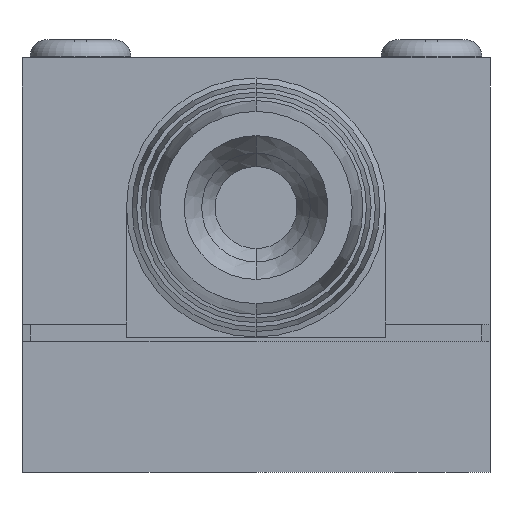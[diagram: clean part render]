
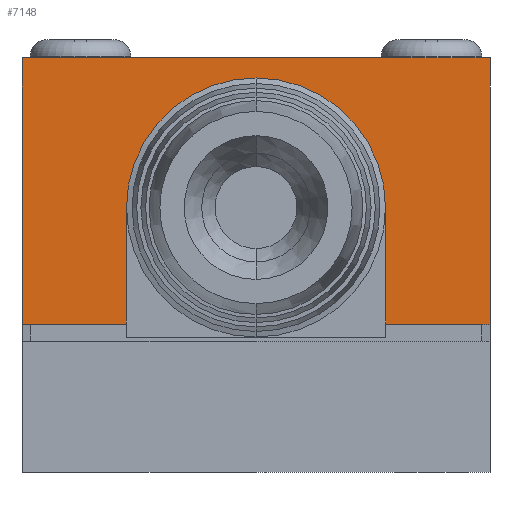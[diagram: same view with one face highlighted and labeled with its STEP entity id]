
A CAD part, front view. The second image highlights one B-rep face of the part: STEP entity #7148.
In plain terms, the highlighted planar face has unit normal (0, -1, 0).
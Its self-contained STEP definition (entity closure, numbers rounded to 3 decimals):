
#126 = EDGE_CURVE ( 'NONE', #6419, #6433, #560, .T. ) ;
#127 = EDGE_CURVE ( 'NONE', #6411, #6419, #563, .T. ) ;
#128 = EDGE_CURVE ( 'NONE', #6436, #6433, #566, .T. ) ;
#129 = EDGE_CURVE ( 'NONE', #6436, #6411, #569, .T. ) ;
#130 = EDGE_CURVE ( 'NONE', #6344, #6343, #6707, .T. ) ;
#559 = CARTESIAN_POINT ( 'NONE',  ( 0., -22.525, 15.85 ) ) ;
#560 = LINE ( 'NONE', #561, #2269 ) ;
#561 = CARTESIAN_POINT ( 'NONE',  ( -14., -22.525, 8.85 ) ) ;
#562 = DIRECTION ( 'NONE',  ( 1., 0., 0. ) ) ;
#563 = LINE ( 'NONE', #564, #2264 ) ;
#564 = CARTESIAN_POINT ( 'NONE',  ( -14., -22.525, 24.8 ) ) ;
#565 = DIRECTION ( 'NONE',  ( 0., 0., -1. ) ) ;
#566 = LINE ( 'NONE', #567, #2251 ) ;
#567 = CARTESIAN_POINT ( 'NONE',  ( 14., -22.525, 24.8 ) ) ;
#568 = DIRECTION ( 'NONE',  ( 0., 0., -1. ) ) ;
#569 = LINE ( 'NONE', #570, #2315 ) ;
#570 = CARTESIAN_POINT ( 'NONE',  ( 14., -22.525, 24.8 ) ) ;
#571 = DIRECTION ( 'NONE',  ( -1., 0., 0. ) ) ;
#572 = DIRECTION ( 'NONE',  ( 0., -1., 0. ) ) ;
#573 = DIRECTION ( 'NONE',  ( 0., 0., 1. ) ) ;
#842 = CARTESIAN_POINT ( 'NONE',  ( 0., -22.525, 11.1 ) ) ;
#843 = CARTESIAN_POINT ( 'NONE',  ( 0., -22.525, 20.6 ) ) ;
#910 = CARTESIAN_POINT ( 'NONE',  ( -14., -22.525, 24.8 ) ) ;
#918 = CARTESIAN_POINT ( 'NONE',  ( -14., -22.525, 8.85 ) ) ;
#932 = CARTESIAN_POINT ( 'NONE',  ( 14., -22.525, 8.85 ) ) ;
#935 = CARTESIAN_POINT ( 'NONE',  ( 14., -22.525, 24.8 ) ) ;
#1458 = FACE_OUTER_BOUND ( 'NONE', #5640, .T. ) ;
#1463 = FACE_BOUND ( 'NONE', #5639, .T. ) ;
#1465 = AXIS2_PLACEMENT_3D ( 'NONE', #11357, #11358, #11359 ) ;
#1572 = AXIS2_PLACEMENT_3D ( 'NONE', #11763, #11767, #11768 ) ;
#2247 = AXIS2_PLACEMENT_3D ( 'NONE', #559, #572, #573 ) ;
#2251 = VECTOR ( 'NONE', #568, 1000. ) ;
#2264 = VECTOR ( 'NONE', #565, 1000. ) ;
#2269 = VECTOR ( 'NONE', #562, 1000. ) ;
#2315 = VECTOR ( 'NONE', #571, 1000. ) ;
#5639 = EDGE_LOOP ( 'NONE', ( #15258, #15259 ) ) ;
#5640 = EDGE_LOOP ( 'NONE', ( #15253, #15255, #15254, #15256 ) ) ;
#6343 = VERTEX_POINT ( 'NONE', #842 ) ;
#6344 = VERTEX_POINT ( 'NONE', #843 ) ;
#6411 = VERTEX_POINT ( 'NONE', #910 ) ;
#6419 = VERTEX_POINT ( 'NONE', #918 ) ;
#6433 = VERTEX_POINT ( 'NONE', #932 ) ;
#6436 = VERTEX_POINT ( 'NONE', #935 ) ;
#6578 = CIRCLE ( 'NONE', #1572, 4.75 ) ;
#6707 = CIRCLE ( 'NONE', #2247, 4.75 ) ;
#7148 = ADVANCED_FACE ( 'NONE', ( #1458, #1463 ), #11356, .F. ) ;
#7228 = EDGE_CURVE ( 'NONE', #6343, #6344, #6578, .T. ) ;
#11356 = PLANE ( 'NONE',  #1465 ) ;
#11357 = CARTESIAN_POINT ( 'NONE',  ( 14., -22.525, 24.8 ) ) ;
#11358 = DIRECTION ( 'NONE',  ( 0., 1., 0. ) ) ;
#11359 = DIRECTION ( 'NONE',  ( 0., 0., 1. ) ) ;
#11763 = CARTESIAN_POINT ( 'NONE',  ( 0., -22.525, 15.85 ) ) ;
#11767 = DIRECTION ( 'NONE',  ( 0., -1., 0. ) ) ;
#11768 = DIRECTION ( 'NONE',  ( 0., 0., 1. ) ) ;
#15253 = ORIENTED_EDGE ( 'NONE', *, *, #127, .T. ) ;
#15254 = ORIENTED_EDGE ( 'NONE', *, *, #128, .F. ) ;
#15255 = ORIENTED_EDGE ( 'NONE', *, *, #126, .T. ) ;
#15256 = ORIENTED_EDGE ( 'NONE', *, *, #129, .T. ) ;
#15258 = ORIENTED_EDGE ( 'NONE', *, *, #130, .F. ) ;
#15259 = ORIENTED_EDGE ( 'NONE', *, *, #7228, .F. ) ;
